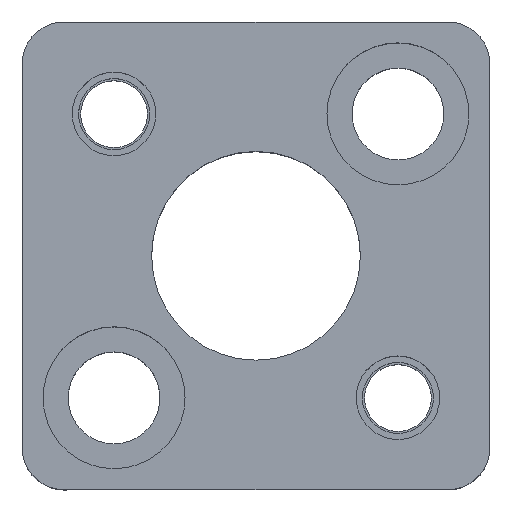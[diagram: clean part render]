
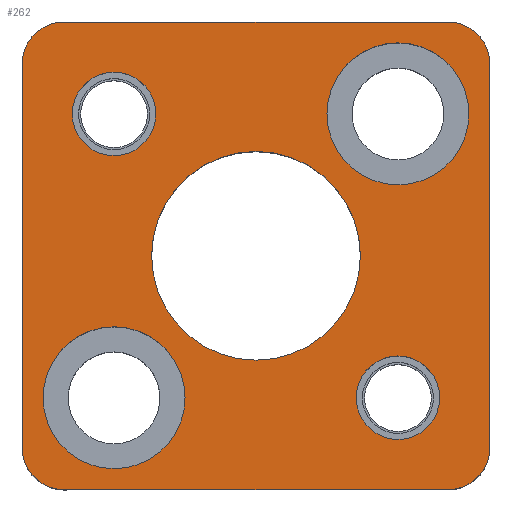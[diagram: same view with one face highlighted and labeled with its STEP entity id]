
A CAD part, top view. The second image highlights one B-rep face of the part: STEP entity #262.
In plain terms, the highlighted planar face has unit normal (0, 0, 1).
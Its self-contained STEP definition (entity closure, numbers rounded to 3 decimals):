
#111=FACE_BOUND('',#381,.T.);
#112=FACE_BOUND('',#382,.T.);
#113=FACE_BOUND('',#383,.T.);
#114=FACE_BOUND('',#384,.T.);
#115=FACE_BOUND('',#385,.T.);
#116=FACE_BOUND('',#386,.T.);
#162=CIRCLE('',#926,5.);
#164=CIRCLE('',#930,5.);
#166=CIRCLE('',#934,5.);
#168=CIRCLE('',#938,5.);
#181=CIRCLE('',#964,8.5);
#183=CIRCLE('',#967,8.5);
#185=CIRCLE('',#971,8.5);
#187=CIRCLE('',#974,8.5);
#209=CIRCLE('',#1011,5.);
#210=CIRCLE('',#1012,5.);
#211=CIRCLE('',#1013,5.);
#212=CIRCLE('',#1014,5.);
#213=CIRCLE('',#1015,12.5);
#214=CIRCLE('',#1016,12.5);
#262=ADVANCED_FACE('',(#111,#112,#113,#114,#115,#116),#287,.T.);
#287=PLANE('',#1017);
#381=EDGE_LOOP('',(#571,#572,#573,#574,#575,#576,#577,#578));
#382=EDGE_LOOP('',(#579,#580));
#383=EDGE_LOOP('',(#581,#582));
#384=EDGE_LOOP('',(#583,#584));
#385=EDGE_LOOP('',(#585,#586));
#386=EDGE_LOOP('',(#587,#588));
#571=ORIENTED_EDGE('',*,*,#724,.T.);
#572=ORIENTED_EDGE('',*,*,#721,.T.);
#573=ORIENTED_EDGE('',*,*,#718,.T.);
#574=ORIENTED_EDGE('',*,*,#715,.T.);
#575=ORIENTED_EDGE('',*,*,#712,.T.);
#576=ORIENTED_EDGE('',*,*,#709,.T.);
#577=ORIENTED_EDGE('',*,*,#730,.T.);
#578=ORIENTED_EDGE('',*,*,#727,.T.);
#579=ORIENTED_EDGE('',*,*,#801,.F.);
#580=ORIENTED_EDGE('',*,*,#802,.F.);
#581=ORIENTED_EDGE('',*,*,#803,.F.);
#582=ORIENTED_EDGE('',*,*,#804,.F.);
#583=ORIENTED_EDGE('',*,*,#769,.F.);
#584=ORIENTED_EDGE('',*,*,#765,.F.);
#585=ORIENTED_EDGE('',*,*,#763,.F.);
#586=ORIENTED_EDGE('',*,*,#759,.F.);
#587=ORIENTED_EDGE('',*,*,#805,.T.);
#588=ORIENTED_EDGE('',*,*,#806,.T.);
#635=VERTEX_POINT('',#1320);
#636=VERTEX_POINT('',#1322);
#638=VERTEX_POINT('',#1328);
#640=VERTEX_POINT('',#1334);
#642=VERTEX_POINT('',#1340);
#644=VERTEX_POINT('',#1346);
#646=VERTEX_POINT('',#1352);
#648=VERTEX_POINT('',#1358);
#665=VERTEX_POINT('',#1433);
#666=VERTEX_POINT('',#1434);
#669=VERTEX_POINT('',#1446);
#670=VERTEX_POINT('',#1447);
#693=VERTEX_POINT('',#1522);
#694=VERTEX_POINT('',#1523);
#695=VERTEX_POINT('',#1526);
#696=VERTEX_POINT('',#1527);
#697=VERTEX_POINT('',#1530);
#698=VERTEX_POINT('',#1531);
#709=EDGE_CURVE('',#636,#635,#825,.T.);
#712=EDGE_CURVE('',#638,#636,#162,.T.);
#715=EDGE_CURVE('',#640,#638,#829,.T.);
#718=EDGE_CURVE('',#642,#640,#164,.T.);
#721=EDGE_CURVE('',#644,#642,#833,.T.);
#724=EDGE_CURVE('',#646,#644,#166,.T.);
#727=EDGE_CURVE('',#648,#646,#837,.T.);
#730=EDGE_CURVE('',#635,#648,#168,.T.);
#759=EDGE_CURVE('',#665,#666,#181,.T.);
#763=EDGE_CURVE('',#666,#665,#183,.T.);
#765=EDGE_CURVE('',#669,#670,#185,.T.);
#769=EDGE_CURVE('',#670,#669,#187,.T.);
#801=EDGE_CURVE('',#693,#694,#209,.T.);
#802=EDGE_CURVE('',#694,#693,#210,.T.);
#803=EDGE_CURVE('',#695,#696,#211,.T.);
#804=EDGE_CURVE('',#696,#695,#212,.T.);
#805=EDGE_CURVE('',#697,#698,#213,.T.);
#806=EDGE_CURVE('',#698,#697,#214,.T.);
#825=LINE('',#1321,#875);
#829=LINE('',#1333,#879);
#833=LINE('',#1345,#883);
#837=LINE('',#1357,#887);
#875=VECTOR('',#1041,1.);
#879=VECTOR('',#1053,1.);
#883=VECTOR('',#1065,1.);
#887=VECTOR('',#1077,1.);
#926=AXIS2_PLACEMENT_3D('',#1327,#1047,#1048);
#930=AXIS2_PLACEMENT_3D('',#1339,#1059,#1060);
#934=AXIS2_PLACEMENT_3D('',#1351,#1071,#1072);
#938=AXIS2_PLACEMENT_3D('',#1362,#1083,#1084);
#964=AXIS2_PLACEMENT_3D('',#1432,#1147,#1148);
#967=AXIS2_PLACEMENT_3D('',#1441,#1155,#1156);
#971=AXIS2_PLACEMENT_3D('',#1445,#1163,#1164);
#974=AXIS2_PLACEMENT_3D('',#1454,#1171,#1172);
#1011=AXIS2_PLACEMENT_3D('',#1521,#1255,#1256);
#1012=AXIS2_PLACEMENT_3D('',#1524,#1257,#1258);
#1013=AXIS2_PLACEMENT_3D('',#1525,#1259,#1260);
#1014=AXIS2_PLACEMENT_3D('',#1528,#1261,#1262);
#1015=AXIS2_PLACEMENT_3D('',#1529,#1263,#1264);
#1016=AXIS2_PLACEMENT_3D('',#1532,#1265,#1266);
#1017=AXIS2_PLACEMENT_3D('',#1533,#1267,#1268);
#1041=DIRECTION('',(0.,-1.,0.));
#1047=DIRECTION('',(0.,0.,1.));
#1048=DIRECTION('',(0.707,-0.707,0.));
#1053=DIRECTION('',(-1.,0.,0.));
#1059=DIRECTION('',(0.,0.,1.));
#1060=DIRECTION('',(-0.707,-0.707,0.));
#1065=DIRECTION('',(0.,1.,0.));
#1071=DIRECTION('',(0.,0.,1.));
#1072=DIRECTION('',(-0.707,0.707,0.));
#1077=DIRECTION('',(1.,0.,0.));
#1083=DIRECTION('',(0.,0.,1.));
#1084=DIRECTION('',(0.707,0.707,0.));
#1147=DIRECTION('',(0.,0.,1.));
#1148=DIRECTION('',(-1.,0.,0.));
#1155=DIRECTION('',(0.,0.,1.));
#1156=DIRECTION('',(1.,0.,0.));
#1163=DIRECTION('',(0.,0.,1.));
#1164=DIRECTION('',(-1.,0.,0.));
#1171=DIRECTION('',(0.,0.,1.));
#1172=DIRECTION('',(1.,0.,0.));
#1255=DIRECTION('',(0.,0.,1.));
#1256=DIRECTION('',(1.,0.,0.));
#1257=DIRECTION('',(0.,0.,1.));
#1258=DIRECTION('',(-1.,0.,0.));
#1259=DIRECTION('',(0.,0.,1.));
#1260=DIRECTION('',(1.,0.,0.));
#1261=DIRECTION('',(0.,0.,1.));
#1262=DIRECTION('',(-1.,0.,0.));
#1263=DIRECTION('',(0.,0.,-1.));
#1264=DIRECTION('',(-1.,0.,0.));
#1265=DIRECTION('',(0.,0.,-1.));
#1266=DIRECTION('',(1.,0.,0.));
#1267=DIRECTION('',(0.,0.,1.));
#1268=DIRECTION('',(-1.,0.,0.));
#1320=CARTESIAN_POINT('',(-28.,-23.,30.));
#1321=CARTESIAN_POINT('',(-28.,23.,30.));
#1322=CARTESIAN_POINT('',(-28.,23.,30.));
#1327=CARTESIAN_POINT('',(-23.,23.,30.));
#1328=CARTESIAN_POINT('',(-23.,28.,30.));
#1333=CARTESIAN_POINT('',(-23.,28.,30.));
#1334=CARTESIAN_POINT('',(23.,28.,30.));
#1339=CARTESIAN_POINT('',(23.,23.,30.));
#1340=CARTESIAN_POINT('',(28.,23.,30.));
#1345=CARTESIAN_POINT('',(28.,23.,30.));
#1346=CARTESIAN_POINT('',(28.,-23.,30.));
#1351=CARTESIAN_POINT('',(23.,-23.,30.));
#1352=CARTESIAN_POINT('',(23.,-28.,30.));
#1357=CARTESIAN_POINT('',(-23.,-28.,30.));
#1358=CARTESIAN_POINT('',(-23.,-28.,30.));
#1362=CARTESIAN_POINT('',(-23.,-23.,30.));
#1432=CARTESIAN_POINT('',(-17.,-17.,30.));
#1433=CARTESIAN_POINT('',(-17.,-25.5,30.));
#1434=CARTESIAN_POINT('',(-17.,-8.5,30.));
#1441=CARTESIAN_POINT('',(-17.,-17.,30.));
#1445=CARTESIAN_POINT('',(17.,17.,30.));
#1446=CARTESIAN_POINT('',(17.,8.5,30.));
#1447=CARTESIAN_POINT('',(17.,25.5,30.));
#1454=CARTESIAN_POINT('',(17.,17.,30.));
#1521=CARTESIAN_POINT('',(-17.,17.,30.));
#1522=CARTESIAN_POINT('',(-17.,22.,30.));
#1523=CARTESIAN_POINT('',(-17.,12.,30.));
#1524=CARTESIAN_POINT('',(-17.,17.,30.));
#1525=CARTESIAN_POINT('',(17.,-17.,30.));
#1526=CARTESIAN_POINT('',(17.,-12.,30.));
#1527=CARTESIAN_POINT('',(17.,-22.,30.));
#1528=CARTESIAN_POINT('',(17.,-17.,30.));
#1529=CARTESIAN_POINT('',(0.,0.,30.));
#1530=CARTESIAN_POINT('',(0.,12.5,30.));
#1531=CARTESIAN_POINT('',(0.,-12.5,30.));
#1532=CARTESIAN_POINT('',(0.,0.,30.));
#1533=CARTESIAN_POINT('',(23.,-28.,30.));
